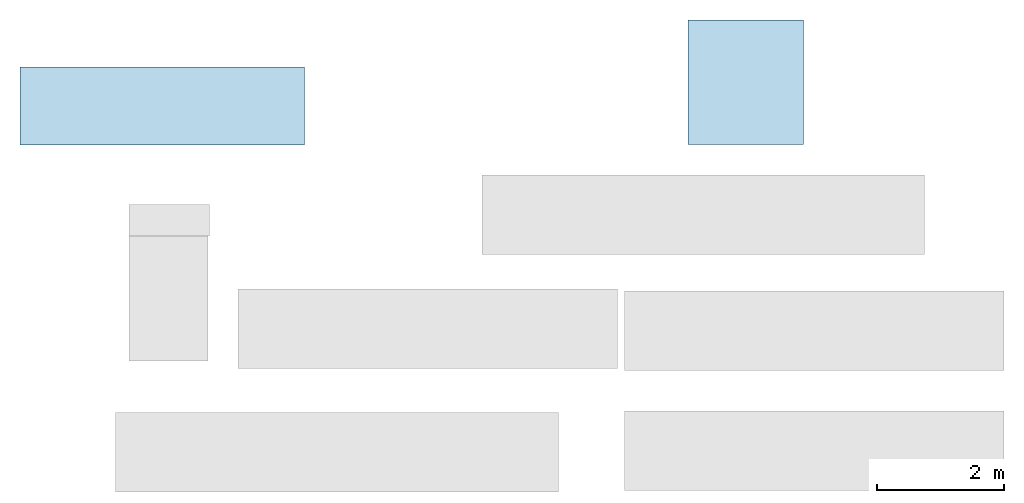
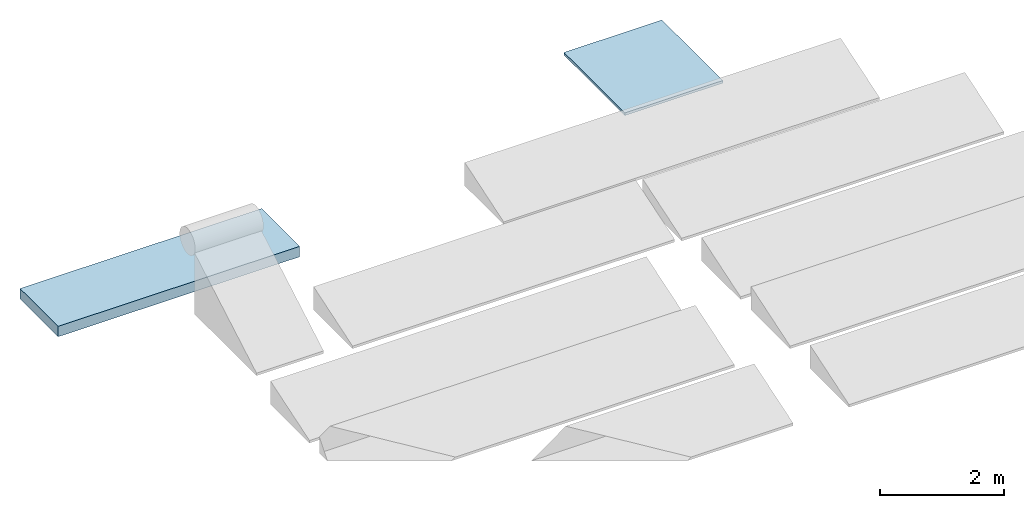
# One storey, part 1 of 2: 2 slabs.
"""IFC2X3 building model written with IfcOpenShell, lengths in millimetres."""

from ifc_helpers import new_model, entity, si_unit, converted_unit, derived_unit, direction, frame, origin, origin_2d_with_axis, place, context, subcontext, project, spatial, rectangle, extrude, material, layer, layer_set, layer_usage, type_object, element, save


model = new_model("IFC2X3")

# Units and contexts
model_context = context("Model", 3, precision=0.01, world=origin(), true_north=direction((6.123031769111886e-17, 1.0)))
body_context = subcontext(model_context, "Body", "Model", "MODEL_VIEW")
ifc_project = project(units=[si_unit("LENGTHUNIT", "METRE", prefix="MILLI"), si_unit("AREAUNIT", "SQUARE_METRE"), si_unit("VOLUMEUNIT", "CUBIC_METRE"), converted_unit("PLANEANGLEUNIT", "DEGREE", entity("IfcRatioMeasure", 0.017453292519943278), si_unit("PLANEANGLEUNIT", "RADIAN"), dimensions=[0, 0, 0, 0, 0, 0, 0]), si_unit("MASSUNIT", "GRAM", prefix="KILO"), derived_unit("MASSDENSITYUNIT", [(si_unit("MASSUNIT", "GRAM", prefix="KILO"), 1), (si_unit("LENGTHUNIT", "METRE"), -3)]), derived_unit("MOMENTOFINERTIAUNIT", [(si_unit("LENGTHUNIT", "METRE"), 4)]), si_unit("TIMEUNIT", "SECOND"), si_unit("FREQUENCYUNIT", "HERTZ"), si_unit("THERMODYNAMICTEMPERATUREUNIT", "DEGREE_CELSIUS"), derived_unit("THERMALTRANSMITTANCEUNIT", [(si_unit("MASSUNIT", "GRAM", prefix="KILO"), 1), (si_unit("THERMODYNAMICTEMPERATUREUNIT", "KELVIN"), -1), (si_unit("TIMEUNIT", "SECOND"), -3)]), derived_unit("VOLUMETRICFLOWRATEUNIT", [(si_unit("LENGTHUNIT", "METRE"), 3), (si_unit("TIMEUNIT", "SECOND"), -1)]), derived_unit("MASSFLOWRATEUNIT", [(si_unit("MASSUNIT", "GRAM", prefix="KILO"), 1), (si_unit("TIMEUNIT", "SECOND"), -1)]), derived_unit("ROTATIONALFREQUENCYUNIT", [(si_unit("TIMEUNIT", "SECOND"), -1)]), si_unit("ELECTRICCURRENTUNIT", "AMPERE"), si_unit("ELECTRICVOLTAGEUNIT", "VOLT"), si_unit("POWERUNIT", "WATT"), si_unit("FORCEUNIT", "NEWTON", prefix="KILO"), si_unit("ILLUMINANCEUNIT", "LUX"), si_unit("LUMINOUSFLUXUNIT", "LUMEN"), si_unit("LUMINOUSINTENSITYUNIT", "CANDELA"), derived_unit("USERDEFINED", [(si_unit("MASSUNIT", "GRAM", prefix="KILO"), -1), (si_unit("LENGTHUNIT", "METRE"), -2), (si_unit("TIMEUNIT", "SECOND"), 3), (si_unit("LUMINOUSFLUXUNIT", "LUMEN"), 1)]), derived_unit("SOUNDPOWERUNIT", [(si_unit("MASSUNIT", "GRAM", prefix="KILO"), 1), (si_unit("LENGTHUNIT", "METRE"), 2), (si_unit("TIMEUNIT", "SECOND"), -3)]), derived_unit("SOUNDPRESSUREUNIT", [(si_unit("MASSUNIT", "GRAM", prefix="KILO"), 1), (si_unit("LENGTHUNIT", "METRE"), -1), (si_unit("TIMEUNIT", "SECOND"), -2)]), derived_unit("LINEARVELOCITYUNIT", [(si_unit("LENGTHUNIT", "METRE"), 1), (si_unit("TIMEUNIT", "SECOND"), -1)]), si_unit("PRESSUREUNIT", "PASCAL"), derived_unit("USERDEFINED", [(si_unit("LENGTHUNIT", "METRE"), -2), (si_unit("MASSUNIT", "GRAM", prefix="KILO"), 1), (si_unit("TIMEUNIT", "SECOND"), -2)]), derived_unit("LINEARFORCEUNIT", [(si_unit("MASSUNIT", "GRAM", prefix="KILO"), 1), (si_unit("LENGTHUNIT", "METRE"), 1), (si_unit("TIMEUNIT", "SECOND"), -2), (si_unit("LENGTHUNIT", "METRE"), -1)]), derived_unit("PLANARFORCEUNIT", [(si_unit("MASSUNIT", "GRAM", prefix="KILO"), 1), (si_unit("LENGTHUNIT", "METRE"), 1), (si_unit("TIMEUNIT", "SECOND"), -2), (si_unit("LENGTHUNIT", "METRE"), -2)])], contexts=[model_context])

# Site, building, storey
site_placement = place(None, origin())
site = spatial("IfcSite", under=ifc_project, at=site_placement, Name="Default", CompositionType="ELEMENT")
building_placement = place(site_placement, origin())
building = spatial("IfcBuilding", under=site, at=building_placement, CompositionType="ELEMENT")
storey_placement = place(building_placement, frame((0.0, 0.0, 6650.0)))
storey = spatial("IfcBuildingStorey", under=building, at=storey_placement, Name="Top", CompositionType="ELEMENT", Elevation=6650.0)

# Slabs
ifc_material_1 = material(Name="Ceramic tiles")
ifc_layer_1 = layer(ifc_material_1, 5.0)
ifc_material_2 = material(Name="cement mortar")
ifc_layer_2 = layer(ifc_material_2, 50.0)
ifc_material_3 = material(Name="Reinforced Concrete 2%")
ifc_layer_3 = layer(ifc_material_3, 150.0)
ifc_layer_set_1 = layer_set([ifc_layer_1, ifc_layer_2, ifc_layer_3], Name="Floor:Floor:Floor:My first floor")
ifc_layer_usage_1 = layer_usage(ifc_layer_set_1, "AXIS3", "POSITIVE", 0.0)
slab_type_1 = type_object("IfcSlabType", Name="Floor:Floor:Floor:My first floor", PredefinedType="FLOOR", material=ifc_layer_set_1)
slab_1_placement = place(storey_placement, origin())
element("IfcSlab", 1, at=slab_1_placement, inside=storey, type_object=slab_type_1, material=ifc_layer_usage_1, Name="Floor:Floor:Floor:My first floor", ObjectType="Floor:Floor:Floor:My first floor", PredefinedType="FLOOR", context=body_context, shape_type="SweptSolid", body=[
    extrude(rectangle(XDim=1229.136246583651, YDim=4500.000000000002, at=origin_2d_with_axis()), frame((-8020.606903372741, 5898.60549297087, -500.0), z_axis=(0.0, 0.0, -1.0), x_axis=(0.0, 1.0, 0.0)), (0.0, 0.0, 1.0), 204.99999999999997),
])
ifc_material_4 = material(Name="Exterior Tread Stair")
ifc_layer_4 = layer(ifc_material_4, 50.0)
ifc_layer_set_2 = layer_set([ifc_layer_4], Name="Floor:Floor:Floor:My metal deck floor")
ifc_layer_usage_2 = layer_usage(ifc_layer_set_2, "AXIS3", "POSITIVE", 0.0)
slab_type_2 = type_object("IfcSlabType", Name="Floor:Floor:Floor:My metal deck floor", PredefinedType="FLOOR", material=ifc_layer_set_2)
slab_2_placement = place(storey_placement, origin())
element("IfcSlab", 2, at=slab_2_placement, inside=storey, type_object=slab_type_2, material=ifc_layer_usage_2, Name="Floor:Floor:Floor:My metal deck floor", ObjectType="Floor:Floor:Floor:My metal deck floor", PredefinedType="FLOOR", context=body_context, shape_type="SweptSolid", body=[
    extrude(rectangle(XDim=1966.4325425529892, YDim=1825.04172545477, at=origin_2d_with_axis()), frame((1202.05236070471, 6274.377784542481, 0.0), z_axis=(0.0, 0.0, -1.0), x_axis=(0.0, 1.0, 0.0)), (0.0, 0.0, 1.0), 49.99999999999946),
])

save(model, "model.ifc")
